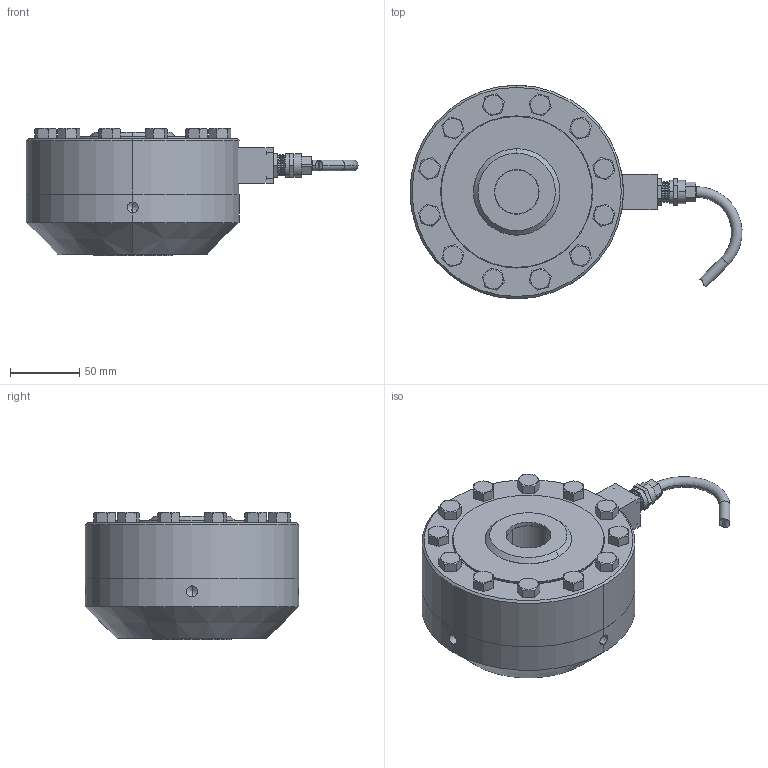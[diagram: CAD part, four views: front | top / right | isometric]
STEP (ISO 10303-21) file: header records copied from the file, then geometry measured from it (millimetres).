
FILE_DESCRIPTION (( 'STEP AP203' ), '1' );
FILE_NAME ('Interface 3220-50K-B.STEP', '2012-06-05T20:55:58', ( ' ' ), ( '' ), 'SwSTEP 2.0', 'SolidWorks 2002349', '' );
FILE_SCHEMA (( 'CONFIG_CONTROL_DESIGN' ));
Length unit declared in the file: inch
Products named in the file (1): Interface 3220-50K-B
Bounding box: 239.52 x 153.95 x 91.82 mm (x, y, z)
Volume: 1446646.3 mm3; surface area: 91004.5 mm2
Topology: 1 solids, 1 shells, 394 faces, 954 edges, 594 vertices
Faces by surface type: plane 245, cylinder 74, cone 62, bspline 9, torus 4
Entity records: 12441 total; most frequent: CARTESIAN_POINT 3232, DIRECTION 1898, ORIENTED_EDGE 1892, EDGE_CURVE 946, AXIS2_PLACEMENT_3D 688, VERTEX_POINT 594, LINE 522, VECTOR 522
